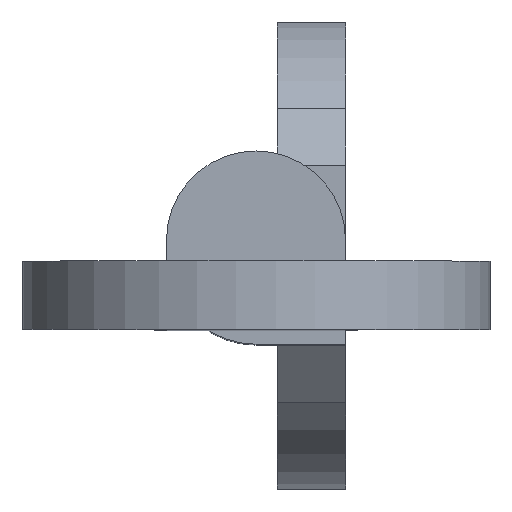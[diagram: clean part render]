
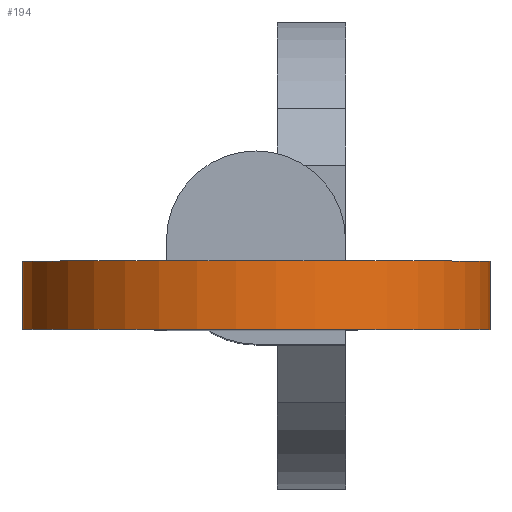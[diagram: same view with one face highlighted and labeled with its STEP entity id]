
A CAD part, top view. The second image highlights one B-rep face of the part: STEP entity #194.
In plain terms, the highlighted cylindrical face has radius 5.205 mm (diameter 10.41 mm), a partial arc.
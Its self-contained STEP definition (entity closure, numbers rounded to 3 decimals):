
#116 = FACE_OUTER_BOUND ( 'NONE', #364, .T. ) ;
#119 = DIRECTION ( 'NONE',  ( 0., -1., 0. ) ) ;
#125 = CARTESIAN_POINT ( 'NONE',  ( 0., -1.99, 101.6 ) ) ;
#145 = ORIENTED_EDGE ( 'NONE', *, *, #641, .T. ) ;
#162 = DIRECTION ( 'NONE',  ( 0., -1., 0. ) ) ;
#166 = EDGE_CURVE ( 'NONE', #390, #283, #499, .T. ) ;
#169 = ORIENTED_EDGE ( 'NONE', *, *, #166, .F. ) ;
#175 = CARTESIAN_POINT ( 'NONE',  ( 3.264, -0.47, 97.545 ) ) ;
#194 = ADVANCED_FACE ( 'NONE', ( #116 ), #868, .T. ) ;
#218 = LINE ( 'NONE', #488, #366 ) ;
#242 = AXIS2_PLACEMENT_3D ( 'NONE', #440, #659, #304 ) ;
#268 = CARTESIAN_POINT ( 'NONE',  ( 3.264, -0.47, 97.545 ) ) ;
#283 = VERTEX_POINT ( 'NONE', #319 ) ;
#298 = DIRECTION ( 'NONE',  ( 0., 0., -1. ) ) ;
#304 = DIRECTION ( 'NONE',  ( 0., 0., -1. ) ) ;
#319 = CARTESIAN_POINT ( 'NONE',  ( -3.264, -1.99, 97.545 ) ) ;
#362 = DIRECTION ( 'NONE',  ( 0., -1., 0. ) ) ;
#364 = EDGE_LOOP ( 'NONE', ( #169, #855, #145, #878 ) ) ;
#366 = VECTOR ( 'NONE', #362, 1000. ) ;
#390 = VERTEX_POINT ( 'NONE', #666 ) ;
#436 = VERTEX_POINT ( 'NONE', #674 ) ;
#438 = VECTOR ( 'NONE', #822, 1000. ) ;
#440 = CARTESIAN_POINT ( 'NONE',  ( 0., -0.47, 101.6 ) ) ;
#488 = CARTESIAN_POINT ( 'NONE',  ( -3.264, -0.47, 97.545 ) ) ;
#499 = CIRCLE ( 'NONE', #661, 5.205 ) ;
#532 = DIRECTION ( 'NONE',  ( 0., 0., -1. ) ) ;
#538 = EDGE_CURVE ( 'NONE', #795, #390, #623, .T. ) ;
#603 = CIRCLE ( 'NONE', #827, 5.205 ) ;
#623 = LINE ( 'NONE', #268, #438 ) ;
#641 = EDGE_CURVE ( 'NONE', #795, #436, #603, .T. ) ;
#659 = DIRECTION ( 'NONE',  ( 0., -1., 0. ) ) ;
#661 = AXIS2_PLACEMENT_3D ( 'NONE', #125, #119, #532 ) ;
#666 = CARTESIAN_POINT ( 'NONE',  ( 3.264, -1.99, 97.545 ) ) ;
#674 = CARTESIAN_POINT ( 'NONE',  ( -3.264, -0.47, 97.545 ) ) ;
#695 = EDGE_CURVE ( 'NONE', #436, #283, #218, .T. ) ;
#768 = CARTESIAN_POINT ( 'NONE',  ( 0., -0.47, 101.6 ) ) ;
#795 = VERTEX_POINT ( 'NONE', #175 ) ;
#822 = DIRECTION ( 'NONE',  ( 0., -1., 0. ) ) ;
#827 = AXIS2_PLACEMENT_3D ( 'NONE', #768, #162, #298 ) ;
#855 = ORIENTED_EDGE ( 'NONE', *, *, #538, .F. ) ;
#868 = CYLINDRICAL_SURFACE ( 'NONE', #242, 5.205 ) ;
#878 = ORIENTED_EDGE ( 'NONE', *, *, #695, .T. ) ;
